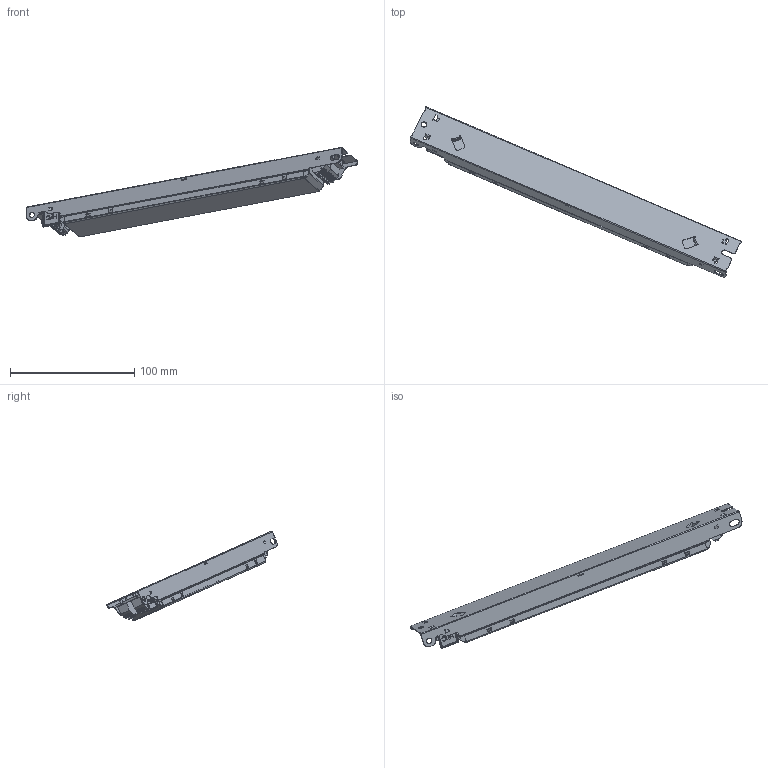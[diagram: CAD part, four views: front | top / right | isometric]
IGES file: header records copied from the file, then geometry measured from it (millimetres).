
Start section: SolidWorks IGES file using analytic representation for surfaces
Global section: file name: C:\Users\vuorinen_kari\Desktop\prj\LL25 35SE-DA\LL25_35SE-DA.IGS; native system: SolidWorks 2014; preprocessor: SolidWorks 2014; author: vuorinen_kari; date: 190820.095854; units: millimetre
Bounding box: 266.45 x 136.88 x 72 mm (x, y, z)
Surface area: 74174.9 mm2 (no closed solid volume)
Topology: 0 solids, 0 shells, 1407 faces, 10237 edges, 10233 vertices
Faces by surface type: bspline 978, revolution 429
